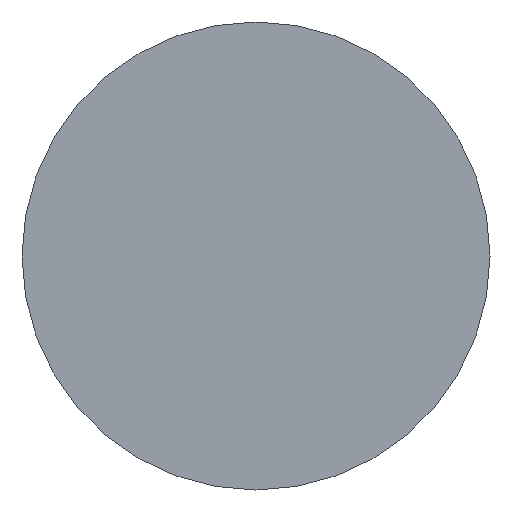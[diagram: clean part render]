
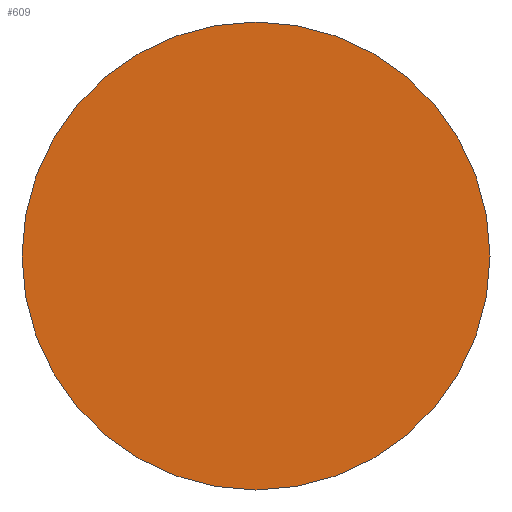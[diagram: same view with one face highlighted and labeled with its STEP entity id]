
A CAD part, front view. The second image highlights one B-rep face of the part: STEP entity #609.
In plain terms, the highlighted planar face has unit normal (0, -1, 0).
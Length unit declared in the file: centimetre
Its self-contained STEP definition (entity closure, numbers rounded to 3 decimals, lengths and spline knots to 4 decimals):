
#29=CIRCLE('',#654,9.);
#93=FACE_OUTER_BOUND('',#137,.T.);
#137=EDGE_LOOP('',(#484));
#306=VERTEX_POINT('',#963);
#374=EDGE_CURVE('',#306,#306,#29,.T.);
#484=ORIENTED_EDGE('',*,*,#374,.T.);
#580=PLANE('',#655);
#609=ADVANCED_FACE('',(#93),#580,.T.);
#654=AXIS2_PLACEMENT_3D('',#964,#775,#776);
#655=AXIS2_PLACEMENT_3D('',#965,#777,#778);
#775=DIRECTION('center_axis',(0.,-1.,0.));
#776=DIRECTION('ref_axis',(1.,0.,0.));
#777=DIRECTION('center_axis',(0.,-1.,0.));
#778=DIRECTION('ref_axis',(0.,0.,-1.));
#963=CARTESIAN_POINT('',(-3.8053,-0.4892,0.));
#964=CARTESIAN_POINT('Origin',(5.1947,-0.4892,0.));
#965=CARTESIAN_POINT('Origin',(5.1947,-0.4892,0.));
